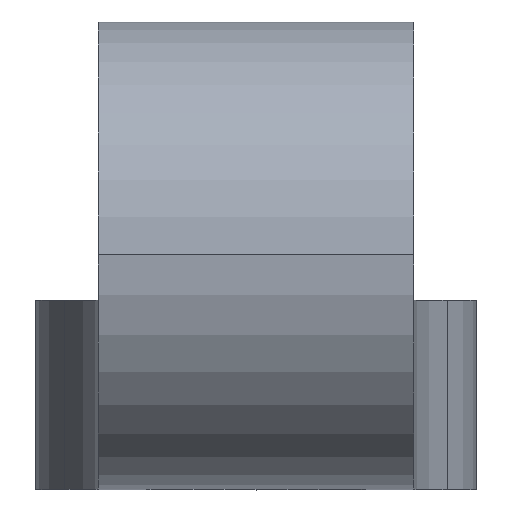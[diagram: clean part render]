
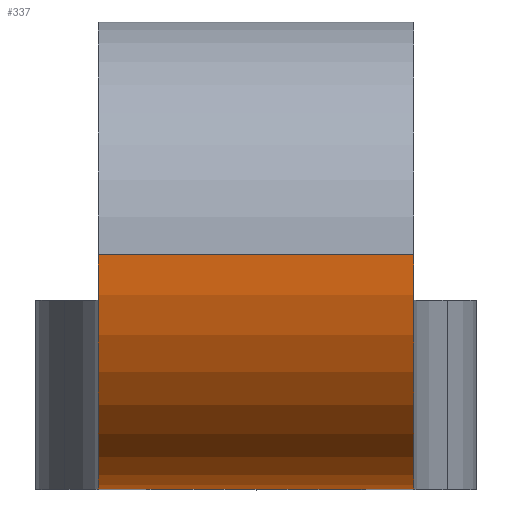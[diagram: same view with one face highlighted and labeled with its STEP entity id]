
A CAD part, top view. The second image highlights one B-rep face of the part: STEP entity #337.
In plain terms, the highlighted cylindrical face has radius 3.706 mm (diameter 7.412 mm), a partial arc.
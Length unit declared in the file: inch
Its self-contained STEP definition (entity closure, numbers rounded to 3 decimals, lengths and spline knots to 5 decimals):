
#1 = LINE ( 'NONE', #244, #450 ) ;
#11 = VERTEX_POINT ( 'NONE', #259 ) ;
#22 = ORIENTED_EDGE ( 'NONE', *, *, #544, .F. ) ;
#24 = EDGE_CURVE ( 'NONE', #299, #11, #93, .T. ) ;
#36 = VERTEX_POINT ( 'NONE', #486 ) ;
#52 = DIRECTION ( 'NONE',  ( 0., 0., 1. ) ) ;
#59 = VERTEX_POINT ( 'NONE', #346 ) ;
#66 = DIRECTION ( 'NONE',  ( -1., 0., 0. ) ) ;
#88 = DIRECTION ( 'NONE',  ( -1., 0., 0. ) ) ;
#93 = LINE ( 'NONE', #344, #550 ) ;
#97 = CARTESIAN_POINT ( 'NONE',  ( 0.09843, 0.14592, 0.24434 ) ) ;
#110 = DIRECTION ( 'NONE',  ( 0., 0., 1. ) ) ;
#156 = CARTESIAN_POINT ( 'NONE',  ( 0.09843, 0.14592, 0.39026 ) ) ;
#176 = DIRECTION ( 'NONE',  ( 0., 0., 1. ) ) ;
#181 = AXIS2_PLACEMENT_3D ( 'NONE', #333, #218, #52 ) ;
#194 = ORIENTED_EDGE ( 'NONE', *, *, #24, .T. ) ;
#218 = DIRECTION ( 'NONE',  ( 1., 0., 0. ) ) ;
#244 = CARTESIAN_POINT ( 'NONE',  ( 0.09843, 0., 0.24434 ) ) ;
#259 = CARTESIAN_POINT ( 'NONE',  ( -0.09843, 0.14592, 0.39026 ) ) ;
#277 = CYLINDRICAL_SURFACE ( 'NONE', #327, 0.14592 ) ;
#287 = DIRECTION ( 'NONE',  ( 1., 0., 0. ) ) ;
#294 = DIRECTION ( 'NONE',  ( -1., 0., 0. ) ) ;
#299 = VERTEX_POINT ( 'NONE', #156 ) ;
#303 = CIRCLE ( 'NONE', #505, 0.14592 ) ;
#310 = CIRCLE ( 'NONE', #181, 0.14592 ) ;
#327 = AXIS2_PLACEMENT_3D ( 'NONE', #545, #66, #110 ) ;
#333 = CARTESIAN_POINT ( 'NONE',  ( -0.09843, 0.14592, 0.24434 ) ) ;
#337 = ADVANCED_FACE ( 'NONE', ( #466 ), #277, .T. ) ;
#344 = CARTESIAN_POINT ( 'NONE',  ( 0.09843, 0.14592, 0.39026 ) ) ;
#346 = CARTESIAN_POINT ( 'NONE',  ( 0.09843, 0., 0.24434 ) ) ;
#393 = ORIENTED_EDGE ( 'NONE', *, *, #420, .F. ) ;
#401 = EDGE_LOOP ( 'NONE', ( #22, #194, #499, #393 ) ) ;
#420 = EDGE_CURVE ( 'NONE', #59, #36, #1, .T. ) ;
#450 = VECTOR ( 'NONE', #88, 39.37008 ) ;
#466 = FACE_OUTER_BOUND ( 'NONE', #401, .T. ) ;
#486 = CARTESIAN_POINT ( 'NONE',  ( -0.09843, 0., 0.24434 ) ) ;
#499 = ORIENTED_EDGE ( 'NONE', *, *, #555, .T. ) ;
#505 = AXIS2_PLACEMENT_3D ( 'NONE', #97, #287, #176 ) ;
#544 = EDGE_CURVE ( 'NONE', #299, #59, #303, .T. ) ;
#545 = CARTESIAN_POINT ( 'NONE',  ( 0.09843, 0.14592, 0.24434 ) ) ;
#550 = VECTOR ( 'NONE', #294, 39.37008 ) ;
#555 = EDGE_CURVE ( 'NONE', #11, #36, #310, .T. ) ;
